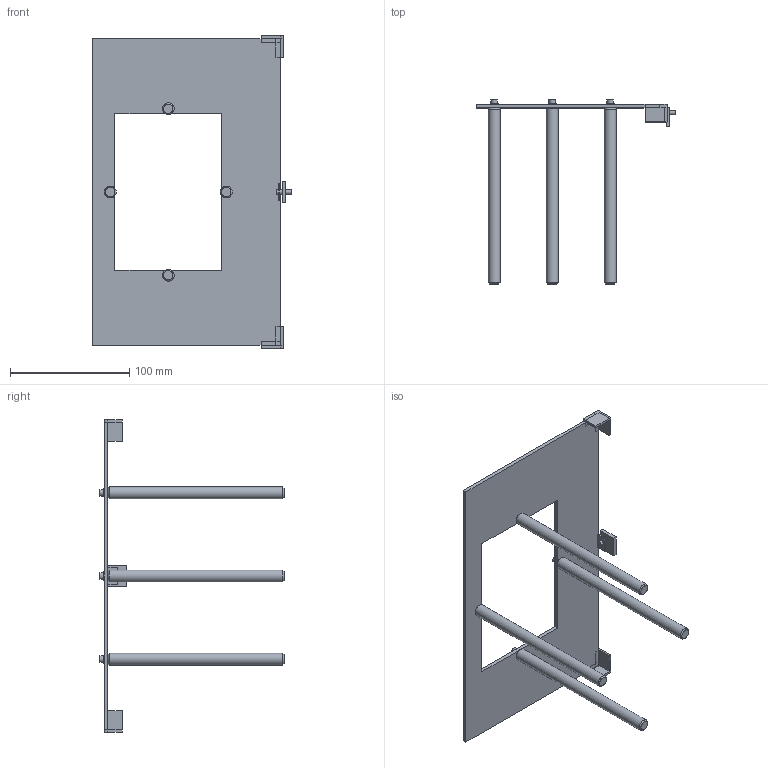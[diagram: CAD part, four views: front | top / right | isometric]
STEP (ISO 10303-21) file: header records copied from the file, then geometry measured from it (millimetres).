
FILE_DESCRIPTION(('Open CASCADE Model'),'2;1');
FILE_NAME('Open CASCADE Shape Model','2026-11-06T06:25:47',('Author'),( 'Open CASCADE'),'Open CASCADE STEP processor 7.8','Open CASCADE 7.8' ,'Unknown');
FILE_SCHEMA(('AUTOMOTIVE_DESIGN { 1 0 10303 214 1 1 1 1 }'));
Length unit declared in the file: millimetre
Products named in the file (19): Right_Guide_Module_R02; Right_independent_top_plate; Right_Guide_01; Right_M3_screw_envelope_00; Right_washer_envelope_00; Right_Guide_02; Right_M3_screw_envelope_01; Right_washer_envelope_01; Right_Guide_03; Right_M3_screw_envelope_02; Right_washer_envelope_02; Right_Guide_04; Right_M3_screw_envelope_03; Right_washer_envelope_03; Right_locator_-1; Right_locator_1; Right_clamp_pad_CONCEPT; Right_clamp_tab_CONCEPT; Right_clamp_screw_CONCEPT
Assembly tree (18 placements, depth 2):
  Right_Guide_Module_R02
    Right_independent_top_plate
    Right_Guide_01
    Right_M3_screw_envelope_00
    Right_washer_envelope_00
    Right_Guide_02
    Right_M3_screw_envelope_01
    Right_washer_envelope_01
    Right_Guide_03
    Right_M3_screw_envelope_02
    Right_washer_envelope_02
    Right_Guide_04
    Right_M3_screw_envelope_03
    Right_washer_envelope_03
    Right_locator_-1
    Right_locator_1
    Right_clamp_pad_CONCEPT
    Right_clamp_tab_CONCEPT
    Right_clamp_screw_CONCEPT
Bounding box: 167.5 x 154.6 x 262.5 mm (x, y, z)
Volume: 137025.8 mm3; surface area: 86113.7 mm2
Topology: 18 solids, 18 shells, 157 faces, 301 edges, 188 vertices
Faces by surface type: plane 114, cylinder 35, cone 8
Full cylindrical faces by diameter (mm): 2.5 x4, 3 x4, 3.2 x4, 4 x1, 5.5 x4, 7 x4, 10 x4
Entity records: 8237 total; most frequent: CARTESIAN_POINT 1339, DIRECTION 1261, LINE 683, VECTOR 683, ORIENTED_EDGE 602, PCURVE 602, DEFINITIONAL_REPRESENTATION 602, EDGE_CURVE 301
